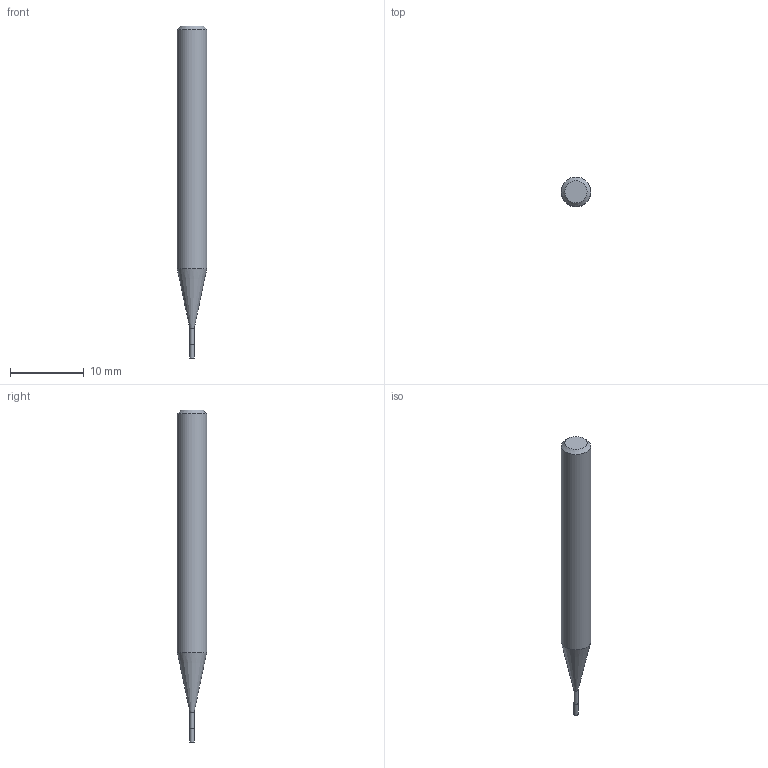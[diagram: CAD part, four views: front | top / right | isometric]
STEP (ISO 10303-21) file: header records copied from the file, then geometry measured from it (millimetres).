
FILE_DESCRIPTION((''),'2;1');
FILE_NAME('C:\Users\nsx150\Desktop\RSE230_20210427\01-00644-00604 RSE230 D0_6X1_8X4.step','2021-05-07T14:52:56',(''),(''),'STEP Write','Mastercam 2021 ... CNC Software, Inc.','');
FILE_SCHEMA(('AUTOMOTIVE_DESIGN'));
Length unit declared in the file: millimetre
Products named in the file (1): None
Bounding box: 4 x 4 x 45 mm (x, y, z)
Volume: 452.5 mm3; surface area: 489.4 mm2
Topology: 2 solids, 2 shells, 9 faces, 12 edges, 7 vertices
Faces by surface type: plane 4, cylinder 3, cone 2
Full cylindrical faces by diameter (mm): 0.56 x1, 0.6 x1, 4 x1
Entity records: 211 total; most frequent: DIRECTION 36, CARTESIAN_POINT 25, AXIS2_PLACEMENT_3D 18, ORIENTED_EDGE 14, EDGE_LOOP 14, STYLED_ITEM 12, ADVANCED_FACE 9, FACE_BOUND 8
